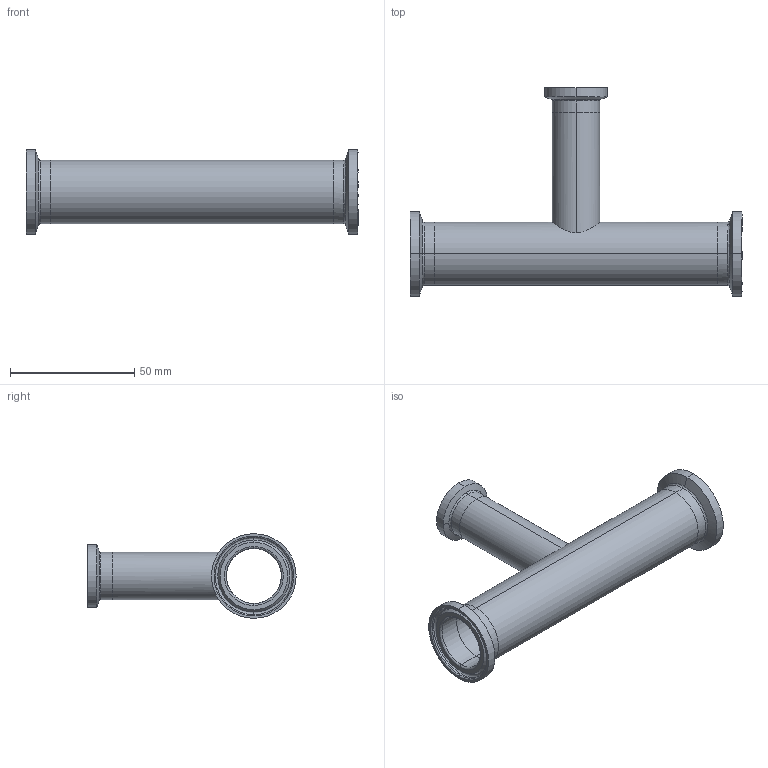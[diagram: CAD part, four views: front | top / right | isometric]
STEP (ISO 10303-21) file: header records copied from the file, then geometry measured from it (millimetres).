
FILE_DESCRIPTION (( 'STEP AP214' ), '1' );
FILE_NAME ('TEG7R6L1.0x.75-..Type A.STEP', '2016-05-24T05:48:43', ( 'eran' ), ( '' ), 'SwSTEP 2.0', 'SolidWorks 2016', '' );
FILE_SCHEMA (( 'AUTOMOTIVE_DESIGN' ));
Length unit declared in the file: millimetre
Products named in the file (1): TEG7R6L1.0x.75-..Type A
Bounding box: 133.4 x 83.71 x 34.01 mm (x, y, z)
Volume: 24244.6 mm3; surface area: 28958 mm2
Topology: 4 solids, 4 shells, 80 faces, 178 edges, 110 vertices
Faces by surface type: cylinder 32, bspline 24, plane 12, cone 12
Entity records: 2777 total; most frequent: CARTESIAN_POINT 953, DIRECTION 394, ORIENTED_EDGE 356, EDGE_CURVE 178, AXIS2_PLACEMENT_3D 175, CIRCLE 118, VERTEX_POINT 110, EDGE_LOOP 94
